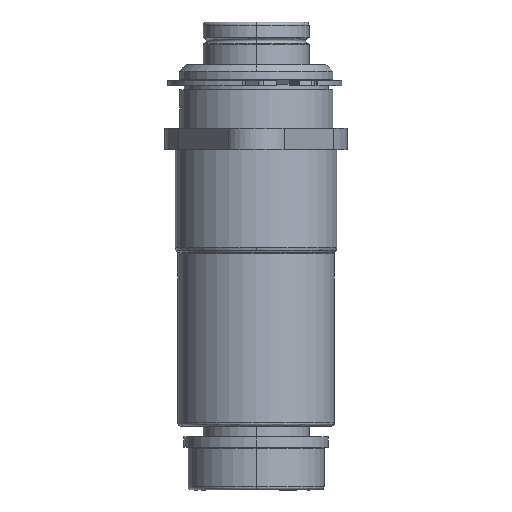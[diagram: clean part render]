
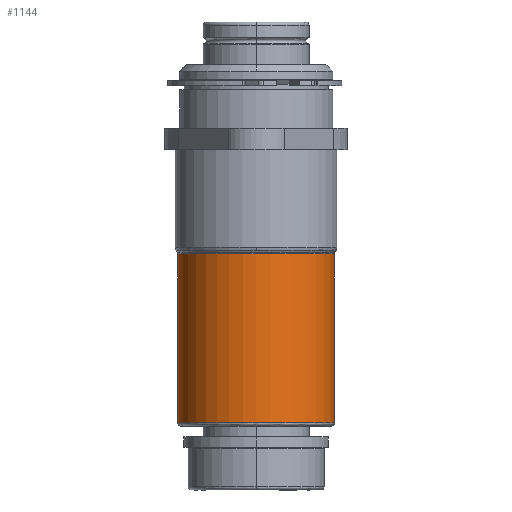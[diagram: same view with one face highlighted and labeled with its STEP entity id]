
A CAD part, left-side view. The second image highlights one B-rep face of the part: STEP entity #1144.
In plain terms, the highlighted cylindrical face has radius 23.368 mm (diameter 46.736 mm), a partial arc.
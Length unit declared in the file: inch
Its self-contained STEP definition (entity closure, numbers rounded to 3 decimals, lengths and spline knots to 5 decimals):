
#58 = CARTESIAN_POINT ( 'NONE',  ( 0., -1.225, -0.92 ) ) ;
#74 = CARTESIAN_POINT ( 'NONE',  ( 0., -1.225, 0. ) ) ;
#81 = ORIENTED_EDGE ( 'NONE', *, *, #443, .F. ) ;
#189 = DIRECTION ( 'NONE',  ( 0., 0., 1. ) ) ;
#338 = VERTEX_POINT ( 'NONE', #58 ) ;
#443 = EDGE_CURVE ( 'NONE', #5431, #5257, #457, .T. ) ;
#457 = CIRCLE ( 'NONE', #2187, 0.92 ) ;
#461 = CARTESIAN_POINT ( 'NONE',  ( 0., -3.21, -0.92 ) ) ;
#478 = CARTESIAN_POINT ( 'NONE',  ( 0., -3.21, 0.92 ) ) ;
#511 = DIRECTION ( 'NONE',  ( 0., 1., 0. ) ) ;
#1100 = LINE ( 'NONE', #3889, #1181 ) ;
#1144 = ADVANCED_FACE ( 'NONE', ( #2688 ), #6035, .T. ) ;
#1181 = VECTOR ( 'NONE', #4344, 39.37008 ) ;
#1203 = VERTEX_POINT ( 'NONE', #2141 ) ;
#1307 = DIRECTION ( 'NONE',  ( 0., -1., 0. ) ) ;
#1357 = AXIS2_PLACEMENT_3D ( 'NONE', #74, #1963, #2549 ) ;
#1421 = EDGE_CURVE ( 'NONE', #1764, #338, #3785, .T. ) ;
#1764 = VERTEX_POINT ( 'NONE', #5532 ) ;
#1786 = DIRECTION ( 'NONE',  ( 0., 0., -1. ) ) ;
#1963 = DIRECTION ( 'NONE',  ( 0., -1., 0. ) ) ;
#2141 = CARTESIAN_POINT ( 'NONE',  ( 0., -1.225, 0.92 ) ) ;
#2187 = AXIS2_PLACEMENT_3D ( 'NONE', #5638, #1307, #1786 ) ;
#2549 = DIRECTION ( 'NONE',  ( 0., 0., 1. ) ) ;
#2682 = LINE ( 'NONE', #2942, #4904 ) ;
#2688 = FACE_OUTER_BOUND ( 'NONE', #5978, .T. ) ;
#2942 = CARTESIAN_POINT ( 'NONE',  ( 0., -3.25, -0.92 ) ) ;
#3658 = DIRECTION ( 'NONE',  ( 0., -1., 0. ) ) ;
#3677 = ORIENTED_EDGE ( 'NONE', *, *, #5872, .F. ) ;
#3719 = CARTESIAN_POINT ( 'NONE',  ( 0., -1.225, 0. ) ) ;
#3785 = CIRCLE ( 'NONE', #1357, 0.92 ) ;
#3797 = EDGE_CURVE ( 'NONE', #1203, #1764, #4500, .T. ) ;
#3889 = CARTESIAN_POINT ( 'NONE',  ( 0., -3.25, 0.92 ) ) ;
#4101 = EDGE_CURVE ( 'NONE', #5431, #1203, #1100, .T. ) ;
#4133 = ORIENTED_EDGE ( 'NONE', *, *, #3797, .T. ) ;
#4344 = DIRECTION ( 'NONE',  ( 0., 1., 0. ) ) ;
#4500 = CIRCLE ( 'NONE', #6014, 0.92 ) ;
#4904 = VECTOR ( 'NONE', #511, 39.37008 ) ;
#5196 = ORIENTED_EDGE ( 'NONE', *, *, #1421, .T. ) ;
#5257 = VERTEX_POINT ( 'NONE', #461 ) ;
#5431 = VERTEX_POINT ( 'NONE', #478 ) ;
#5499 = CARTESIAN_POINT ( 'NONE',  ( 0., -3.25, 0. ) ) ;
#5506 = AXIS2_PLACEMENT_3D ( 'NONE', #5499, #6040, #189 ) ;
#5532 = CARTESIAN_POINT ( 'NONE',  ( -0.92, -1.225, 0. ) ) ;
#5612 = DIRECTION ( 'NONE',  ( 0., 0., 1. ) ) ;
#5638 = CARTESIAN_POINT ( 'NONE',  ( 0., -3.21, 0. ) ) ;
#5872 = EDGE_CURVE ( 'NONE', #5257, #338, #2682, .T. ) ;
#5978 = EDGE_LOOP ( 'NONE', ( #3677, #81, #6251, #4133, #5196 ) ) ;
#6014 = AXIS2_PLACEMENT_3D ( 'NONE', #3719, #3658, #5612 ) ;
#6035 = CYLINDRICAL_SURFACE ( 'NONE', #5506, 0.92 ) ;
#6040 = DIRECTION ( 'NONE',  ( 0., 1., 0. ) ) ;
#6251 = ORIENTED_EDGE ( 'NONE', *, *, #4101, .T. ) ;
